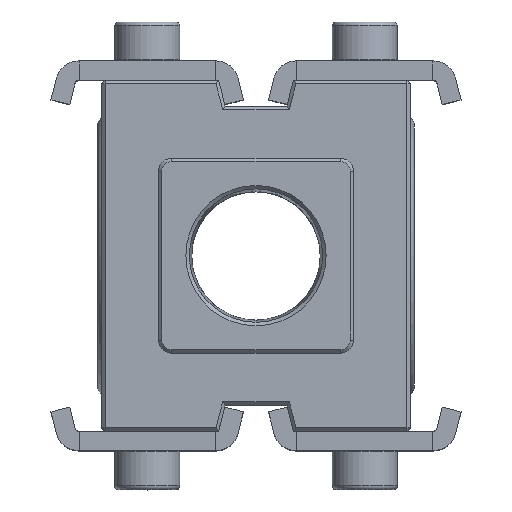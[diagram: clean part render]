
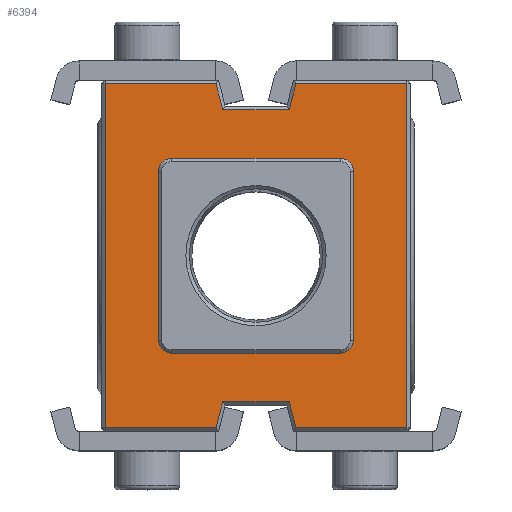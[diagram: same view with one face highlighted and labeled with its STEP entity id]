
A CAD part, top view. The second image highlights one B-rep face of the part: STEP entity #6394.
In plain terms, the highlighted planar face has unit normal (0, 0, 1).
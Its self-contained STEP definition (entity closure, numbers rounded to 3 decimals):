
#103=CIRCLE('',#6689,2.);
#104=CIRCLE('',#6690,2.);
#105=CIRCLE('',#6691,2.);
#106=CIRCLE('',#6692,2.);
#401=ORIENTED_EDGE('',*,*,#1557,.F.);
#402=ORIENTED_EDGE('',*,*,#1558,.T.);
#403=ORIENTED_EDGE('',*,*,#1559,.F.);
#404=ORIENTED_EDGE('',*,*,#1560,.T.);
#405=ORIENTED_EDGE('',*,*,#1561,.F.);
#406=ORIENTED_EDGE('',*,*,#1562,.T.);
#407=ORIENTED_EDGE('',*,*,#1563,.F.);
#408=ORIENTED_EDGE('',*,*,#1564,.T.);
#409=ORIENTED_EDGE('',*,*,#1565,.T.);
#410=ORIENTED_EDGE('',*,*,#1566,.T.);
#411=ORIENTED_EDGE('',*,*,#1567,.T.);
#412=ORIENTED_EDGE('',*,*,#1568,.T.);
#413=ORIENTED_EDGE('',*,*,#1569,.T.);
#414=ORIENTED_EDGE('',*,*,#1570,.T.);
#415=ORIENTED_EDGE('',*,*,#1571,.T.);
#416=ORIENTED_EDGE('',*,*,#1572,.T.);
#417=ORIENTED_EDGE('',*,*,#1536,.T.);
#418=ORIENTED_EDGE('',*,*,#1550,.T.);
#419=ORIENTED_EDGE('',*,*,#1573,.T.);
#420=ORIENTED_EDGE('',*,*,#1574,.T.);
#1536=EDGE_CURVE('',#2134,#2133,#2562,.T.);
#1550=EDGE_CURVE('',#2133,#2142,#2576,.T.);
#1557=EDGE_CURVE('',#2149,#2150,#2583,.T.);
#1558=EDGE_CURVE('',#2149,#2151,#103,.T.);
#1559=EDGE_CURVE('',#2152,#2151,#2584,.T.);
#1560=EDGE_CURVE('',#2152,#2153,#104,.T.);
#1561=EDGE_CURVE('',#2154,#2153,#2585,.T.);
#1562=EDGE_CURVE('',#2154,#2155,#105,.T.);
#1563=EDGE_CURVE('',#2156,#2155,#2586,.T.);
#1564=EDGE_CURVE('',#2156,#2150,#106,.T.);
#1565=EDGE_CURVE('',#2157,#2158,#2587,.T.);
#1566=EDGE_CURVE('',#2158,#2159,#2588,.T.);
#1567=EDGE_CURVE('',#2159,#2160,#2589,.T.);
#1568=EDGE_CURVE('',#2160,#2161,#2590,.T.);
#1569=EDGE_CURVE('',#2161,#2162,#2591,.T.);
#1570=EDGE_CURVE('',#2162,#2163,#2592,.T.);
#1571=EDGE_CURVE('',#2163,#2164,#2593,.T.);
#1572=EDGE_CURVE('',#2164,#2134,#2594,.T.);
#1573=EDGE_CURVE('',#2142,#2165,#2595,.T.);
#1574=EDGE_CURVE('',#2165,#2157,#2596,.T.);
#2133=VERTEX_POINT('',#8481);
#2134=VERTEX_POINT('',#8483);
#2142=VERTEX_POINT('',#8509);
#2149=VERTEX_POINT('',#8526);
#2150=VERTEX_POINT('',#8527);
#2151=VERTEX_POINT('',#8529);
#2152=VERTEX_POINT('',#8531);
#2153=VERTEX_POINT('',#8533);
#2154=VERTEX_POINT('',#8535);
#2155=VERTEX_POINT('',#8537);
#2156=VERTEX_POINT('',#8539);
#2157=VERTEX_POINT('',#8542);
#2158=VERTEX_POINT('',#8543);
#2159=VERTEX_POINT('',#8545);
#2160=VERTEX_POINT('',#8547);
#2161=VERTEX_POINT('',#8549);
#2162=VERTEX_POINT('',#8551);
#2163=VERTEX_POINT('',#8553);
#2164=VERTEX_POINT('',#8555);
#2165=VERTEX_POINT('',#8558);
#2562=LINE('',#8482,#3086);
#2576=LINE('',#8510,#3100);
#2583=LINE('',#8525,#3107);
#2584=LINE('',#8530,#3108);
#2585=LINE('',#8534,#3109);
#2586=LINE('',#8538,#3110);
#2587=LINE('',#8541,#3111);
#2588=LINE('',#8544,#3112);
#2589=LINE('',#8546,#3113);
#2590=LINE('',#8548,#3114);
#2591=LINE('',#8550,#3115);
#2592=LINE('',#8552,#3116);
#2593=LINE('',#8554,#3117);
#2594=LINE('',#8556,#3118);
#2595=LINE('',#8557,#3119);
#2596=LINE('',#8559,#3120);
#3086=VECTOR('',#7192,1000.);
#3100=VECTOR('',#7216,1000.);
#3107=VECTOR('',#7227,1000.);
#3108=VECTOR('',#7230,1000.);
#3109=VECTOR('',#7233,1000.);
#3110=VECTOR('',#7236,1000.);
#3111=VECTOR('',#7239,1000.);
#3112=VECTOR('',#7240,1000.);
#3113=VECTOR('',#7241,1000.);
#3114=VECTOR('',#7242,1000.);
#3115=VECTOR('',#7243,1000.);
#3116=VECTOR('',#7244,1000.);
#3117=VECTOR('',#7245,1000.);
#3118=VECTOR('',#7246,1000.);
#3119=VECTOR('',#7247,1000.);
#3120=VECTOR('',#7248,1000.);
#3583=EDGE_LOOP('',(#401,#402,#403,#404,#405,#406,#407,#408));
#3584=EDGE_LOOP('',(#409,#410,#411,#412,#413,#414,#415,#416,#417,#418,#419,
#420));
#3925=FACE_BOUND('',#3583,.T.);
#3926=FACE_BOUND('',#3584,.T.);
#4248=PLANE('',#6688);
#6394=ADVANCED_FACE('',(#3925,#3926),#4248,.T.);
#6688=AXIS2_PLACEMENT_3D('',#8524,#7225,#7226);
#6689=AXIS2_PLACEMENT_3D('',#8528,#7228,#7229);
#6690=AXIS2_PLACEMENT_3D('',#8532,#7231,#7232);
#6691=AXIS2_PLACEMENT_3D('',#8536,#7234,#7235);
#6692=AXIS2_PLACEMENT_3D('',#8540,#7237,#7238);
#7192=DIRECTION('',(0.243,-0.97,0.));
#7216=DIRECTION('',(1.,0.,0.));
#7225=DIRECTION('',(0.,0.,1.));
#7226=DIRECTION('',(1.,0.,0.));
#7227=DIRECTION('',(0.,1.,0.));
#7228=DIRECTION('',(0.,0.,-1.));
#7229=DIRECTION('',(0.,-1.,0.));
#7230=DIRECTION('',(1.,0.,0.));
#7231=DIRECTION('',(0.,0.,-1.));
#7232=DIRECTION('',(0.,-1.,0.));
#7233=DIRECTION('',(0.,-1.,0.));
#7234=DIRECTION('',(0.,0.,-1.));
#7235=DIRECTION('',(0.,-1.,0.));
#7236=DIRECTION('',(-1.,0.,0.));
#7237=DIRECTION('',(0.,0.,-1.));
#7238=DIRECTION('',(0.,-1.,0.));
#7239=DIRECTION('',(-0.243,-0.97,0.));
#7240=DIRECTION('',(-1.,0.,0.));
#7241=DIRECTION('',(-0.243,0.97,0.));
#7242=DIRECTION('',(-1.,0.,0.));
#7243=DIRECTION('',(0.,-1.,0.));
#7244=DIRECTION('',(1.,0.,0.));
#7245=DIRECTION('',(0.243,0.97,0.));
#7246=DIRECTION('',(1.,0.,0.));
#7247=DIRECTION('',(0.,1.,0.));
#7248=DIRECTION('',(-1.,0.,0.));
#8481=CARTESIAN_POINT('',(-17.61,-26.5,23.5));
#8482=CARTESIAN_POINT('',(-17.515,-26.879,23.5));
#8483=CARTESIAN_POINT('',(-18.61,-22.5,23.5));
#8509=CARTESIAN_POINT('',(-0.5,-26.5,23.5));
#8510=CARTESIAN_POINT('',(-23.75,-26.5,23.5));
#8524=CARTESIAN_POINT('',(-23.75,7.5,23.5));
#8525=CARTESIAN_POINT('',(-8.75,-15.,23.5));
#8526=CARTESIAN_POINT('',(-8.75,-13.,23.5));
#8527=CARTESIAN_POINT('',(-8.75,13.,23.5));
#8528=CARTESIAN_POINT('',(-10.75,-13.,23.5));
#8529=CARTESIAN_POINT('',(-10.75,-15.,23.5));
#8530=CARTESIAN_POINT('',(-38.75,-15.,23.5));
#8531=CARTESIAN_POINT('',(-36.75,-15.,23.5));
#8532=CARTESIAN_POINT('',(-36.75,-13.,23.5));
#8533=CARTESIAN_POINT('',(-38.75,-13.,23.5));
#8534=CARTESIAN_POINT('',(-38.75,15.,23.5));
#8535=CARTESIAN_POINT('',(-38.75,13.,23.5));
#8536=CARTESIAN_POINT('',(-36.75,13.,23.5));
#8537=CARTESIAN_POINT('',(-36.75,15.,23.5));
#8538=CARTESIAN_POINT('',(-8.75,15.,23.5));
#8539=CARTESIAN_POINT('',(-10.75,15.,23.5));
#8540=CARTESIAN_POINT('',(-10.75,13.,23.5));
#8541=CARTESIAN_POINT('',(-18.515,22.879,23.5));
#8542=CARTESIAN_POINT('',(-17.61,26.5,23.5));
#8543=CARTESIAN_POINT('',(-18.61,22.5,23.5));
#8544=CARTESIAN_POINT('',(-28.5,22.5,23.5));
#8545=CARTESIAN_POINT('',(-28.89,22.5,23.5));
#8546=CARTESIAN_POINT('',(-29.985,26.879,23.5));
#8547=CARTESIAN_POINT('',(-29.89,26.5,23.5));
#8548=CARTESIAN_POINT('',(-23.75,26.5,23.5));
#8549=CARTESIAN_POINT('',(-47.,26.5,23.5));
#8550=CARTESIAN_POINT('',(-47.,7.5,23.5));
#8551=CARTESIAN_POINT('',(-47.,-26.5,23.5));
#8552=CARTESIAN_POINT('',(-23.75,-26.5,23.5));
#8553=CARTESIAN_POINT('',(-29.89,-26.5,23.5));
#8554=CARTESIAN_POINT('',(-28.985,-22.879,23.5));
#8555=CARTESIAN_POINT('',(-28.89,-22.5,23.5));
#8556=CARTESIAN_POINT('',(-19.,-22.5,23.5));
#8557=CARTESIAN_POINT('',(-0.5,7.5,23.5));
#8558=CARTESIAN_POINT('',(-0.5,26.5,23.5));
#8559=CARTESIAN_POINT('',(-23.75,26.5,23.5));
